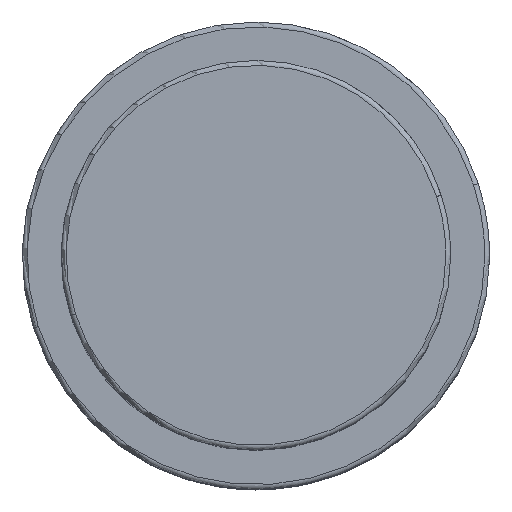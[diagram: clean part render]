
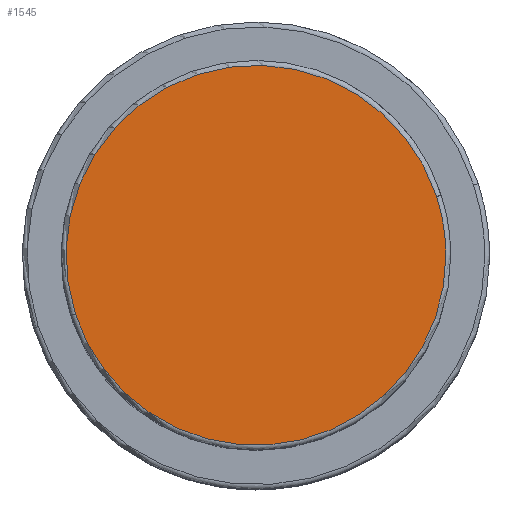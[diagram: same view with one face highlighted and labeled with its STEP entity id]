
A CAD part, top view. The second image highlights one B-rep face of the part: STEP entity #1545.
In plain terms, the highlighted planar face has unit normal (0, 0, 1).
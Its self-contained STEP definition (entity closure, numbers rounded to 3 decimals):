
#1478=CARTESIAN_POINT('',(18.546,6.026,43.5));
#1479=VERTEX_POINT('',#1478);
#1497=CARTESIAN_POINT('',(-18.546,-6.026,43.5));
#1498=VERTEX_POINT('',#1497);
#1506=CARTESIAN_POINT('',(0.0,0.0,43.5));
#1507=DIRECTION('',(0.0,0.0,1.0));
#1508=DIRECTION('',(1.0,0.0,0.0));
#1509=AXIS2_PLACEMENT_3D('',#1506,#1507,#1508);
#1510=CIRCLE('',#1509,19.5);
#1511=EDGE_CURVE('no 1769',#1479,#1498,#1510,.T.);
#1521=CARTESIAN_POINT('',(19.5,0.0,43.5));
#1522=VERTEX_POINT('',#1521);
#1523=CARTESIAN_POINT('',(0.0,0.0,43.5));
#1524=DIRECTION('',(0.0,0.0,1.0));
#1525=DIRECTION('',(1.0,0.0,0.0));
#1526=AXIS2_PLACEMENT_3D('',#1523,#1524,#1525);
#1527=CIRCLE('',#1526,19.5);
#1528=EDGE_CURVE('no 1778',#1522,#1479,#1527,.T.);
#1529=ORIENTED_EDGE('',*,*,#1528,.T.);
#1530=ORIENTED_EDGE('',*,*,#1511,.T.);
#1531=CARTESIAN_POINT('',(0.0,0.0,43.5));
#1532=DIRECTION('',(0.0,0.0,1.0));
#1533=DIRECTION('',(1.0,0.0,0.0));
#1534=AXIS2_PLACEMENT_3D('',#1531,#1532,#1533);
#1535=CIRCLE('',#1534,19.5);
#1536=EDGE_CURVE('no 1784',#1498,#1522,#1535,.T.);
#1537=ORIENTED_EDGE('',*,*,#1536,.T.);
#1538=EDGE_LOOP('',(#1529,#1530,#1537));
#1539=FACE_OUTER_BOUND('',#1538,.T.);
#1540=CARTESIAN_POINT('',(0.0,0.0,43.5));
#1541=DIRECTION('',(0.0,0.0,1.0));
#1542=DIRECTION('',(1.0,0.0,0.0));
#1543=AXIS2_PLACEMENT_3D('',#1540,#1541,#1542);
#1544=PLANE('',#1543);
#1545=ADVANCED_FACE('no 1771',(#1539),#1544,.T.);
